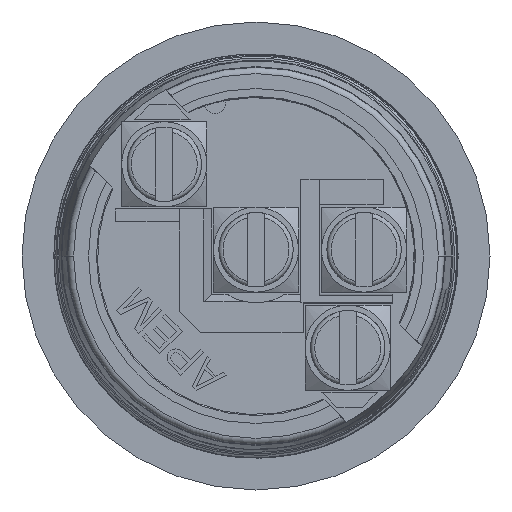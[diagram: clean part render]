
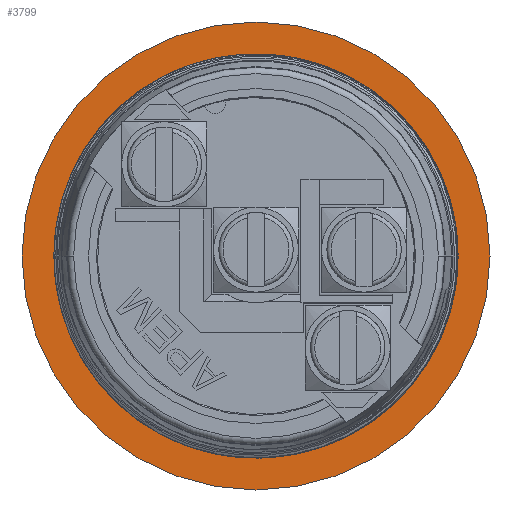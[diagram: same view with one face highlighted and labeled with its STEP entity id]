
A CAD part, front view. The second image highlights one B-rep face of the part: STEP entity #3799.
In plain terms, the highlighted planar face has unit normal (0, -1, 0).
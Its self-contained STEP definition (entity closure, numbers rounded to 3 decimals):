
#49=CARTESIAN_POINT('',(0.,8.716,0.));
#50=DIRECTION('',(0.,1.,0.));
#51=DIRECTION('',(-1.,0.,0.));
#52=AXIS2_PLACEMENT_3D('',#49,#50,#51);
#54=CARTESIAN_POINT('',(0.,8.716,0.));
#55=DIRECTION('',(0.,-1.,0.));
#56=DIRECTION('',(-1.,0.,0.));
#57=AXIS2_PLACEMENT_3D('',#54,#55,#56);
#59=CARTESIAN_POINT('',(0.,8.716,0.));
#60=DIRECTION('',(0.,-1.,0.));
#61=DIRECTION('',(-0.914,0.,-0.407));
#62=AXIS2_PLACEMENT_3D('',#59,#60,#61);
#1046=CARTESIAN_POINT('',(0.,8.716,0.));
#1047=DIRECTION('',(0.,1.,0.));
#1048=DIRECTION('',(-1.,0.,0.));
#1049=AXIS2_PLACEMENT_3D('',#1046,#1047,#1048);
#2284=CARTESIAN_POINT('',(0.,8.716,0.));
#2285=DIRECTION('',(0.,-1.,0.));
#2286=DIRECTION('',(-1.,0.,0.));
#2287=AXIS2_PLACEMENT_3D('',#2284,#2285,#2286);
#3561=CARTESIAN_POINT('',(-11.,8.716,0.));
#3562=VERTEX_POINT('',#3561);
#3567=CARTESIAN_POINT('',(11.,8.716,0.));
#3568=VERTEX_POINT('',#3567);
#3582=CARTESIAN_POINT('',(9.448,8.716,
-0.993));
#3583=CARTESIAN_POINT('',(-8.679,8.716,
-3.864));
#3584=VERTEX_POINT('',#3582);
#3585=VERTEX_POINT('',#3583);
#3663=CARTESIAN_POINT('',(-9.5,8.716,0.));
#3664=VERTEX_POINT('',#3663);
#3782=CARTESIAN_POINT('',(0.,8.716,0.));
#3783=DIRECTION('',(0.,1.,0.));
#3784=DIRECTION('',(1.,0.,0.));
#3785=AXIS2_PLACEMENT_3D('',#3782,#3783,#3784);
#3786=PLANE('',#3785);
#3787=ORIENTED_EDGE('',*,*,#3764,.T.);
#3788=ORIENTED_EDGE('',*,*,#3775,.F.);
#3789=EDGE_LOOP('',(#3787,#3788));
#3790=FACE_OUTER_BOUND('',#3789,.F.);
#3792=ORIENTED_EDGE('',*,*,#3791,.T.);
#3794=ORIENTED_EDGE('',*,*,#3793,.F.);
#3796=ORIENTED_EDGE('',*,*,#3795,.T.);
#3797=EDGE_LOOP('',(#3792,#3794,#3796));
#3798=FACE_BOUND('',#3797,.F.);
#53=CIRCLE('',#52,11.);
#58=CIRCLE('',#57,11.);
#63=CIRCLE('',#62,9.5);
#1050=CIRCLE('',#1049,9.5);
#2288=CIRCLE('',#2287,9.5);
#3764=EDGE_CURVE('',#3562,#3568,#53,.T.);
#3775=EDGE_CURVE('',#3562,#3568,#58,.T.);
#3791=EDGE_CURVE('',#3585,#3584,#63,.T.);
#3793=EDGE_CURVE('',#3664,#3584,#1050,.T.);
#3795=EDGE_CURVE('',#3664,#3585,#2288,.T.);
#3799=ADVANCED_FACE('',(#3790,#3798),#3786,.F.);
